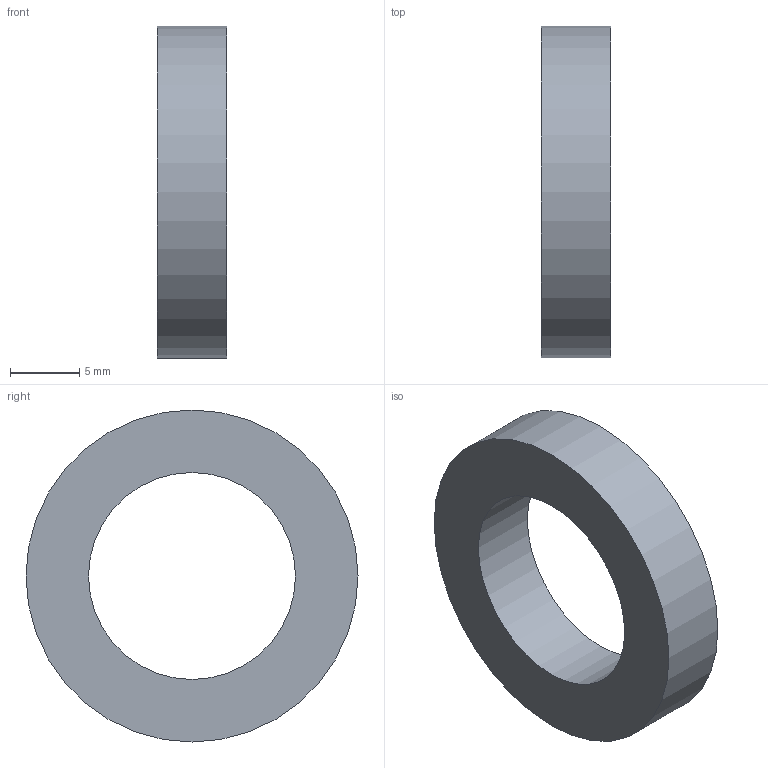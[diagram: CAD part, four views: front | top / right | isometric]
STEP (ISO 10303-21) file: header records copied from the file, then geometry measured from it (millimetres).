
FILE_DESCRIPTION(('Open CASCADE Model'),'2;1');
FILE_NAME('Open CASCADE Shape Model','2026-10-31T23:30:31',('Author'),( 'Open CASCADE'),'Open CASCADE STEP processor 7.9','Open CASCADE 7.9' ,'Unknown');
FILE_SCHEMA(('AUTOMOTIVE_DESIGN { 1 0 10303 214 1 1 1 1 }'));
Length unit declared in the file: millimetre
Products named in the file (1): Open CASCADE STEP translator 7.9 10
Bounding box: 5 x 24 x 24 mm (x, y, z)
Volume: 1383.1 mm3; surface area: 1165.2 mm2
Topology: 1 solids, 1 shells, 4 faces, 6 edges, 4 vertices
Faces by surface type: cylinder 2, plane 2
Full cylindrical faces by diameter (mm): 14.96 x1, 24 x1
Entity records: 186 total; most frequent: DIRECTION 32, CARTESIAN_POINT 27, ORIENTED_EDGE 12, PCURVE 12, DEFINITIONAL_REPRESENTATION 12, LINE 10, VECTOR 10, AXIS2_PLACEMENT_3D 9
